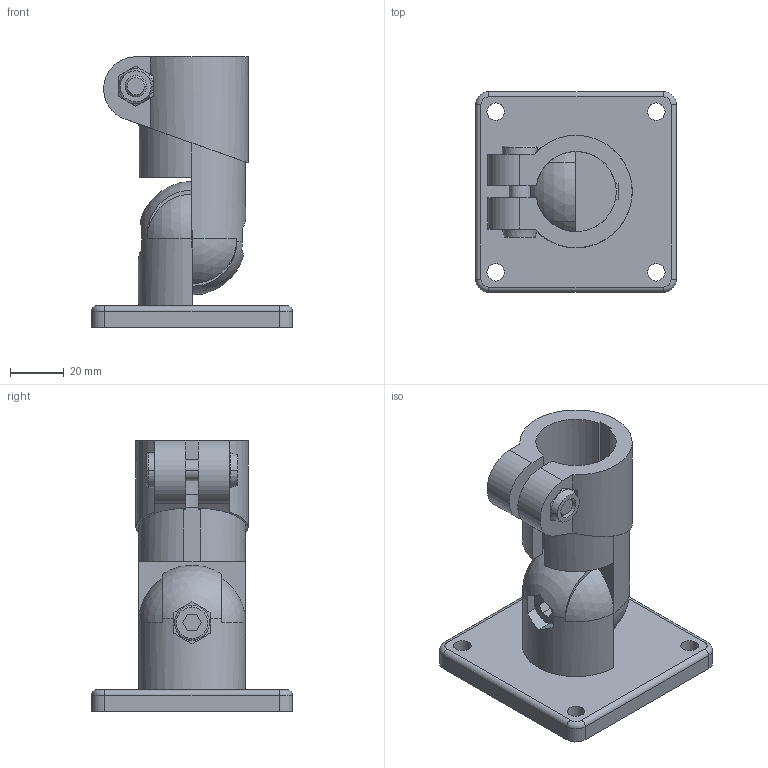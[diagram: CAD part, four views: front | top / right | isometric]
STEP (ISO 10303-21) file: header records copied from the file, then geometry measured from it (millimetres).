
FILE_DESCRIPTION (( 'STEP AP203' ), '1' );
FILE_NAME ('TCC30-AP-PB-T-G.STEP', '2023-09-15T06:35:56', ( '' ), ( '' ), 'SwSTEP 2.0', 'SolidWorks 2021', '' );
FILE_SCHEMA (( 'CONFIG_CONTROL_DESIGN' ));
Length unit declared in the file: millimetre
Products named in the file (7): TCC30-AP-PB-T-G_05; TCC30-AP-PB-T-G; TCC30-AP-PB-T-G_04; TCC30-AP-PB-T-G_06; TCC30-AP-PB-T-G_03; TCC30-AP-PB-T-G_02; TCC30-AP-PB-T-G_01
Assembly tree (6 placements, depth 2):
  TCC30-AP-PB-T-G
    TCC30-AP-PB-T-G_01
    TCC30-AP-PB-T-G_02
    TCC30-AP-PB-T-G_03
    TCC30-AP-PB-T-G_04
    TCC30-AP-PB-T-G_05
    TCC30-AP-PB-T-G_06
Bounding box: 75 x 75 x 101 mm (x, y, z)
Volume: 120563.7 mm3; surface area: 45136 mm2
Topology: 6 solids, 6 shells, 267 faces, 655 edges, 421 vertices
Faces by surface type: plane 143, cylinder 78, cone 32, torus 8, sphere 6
Entity records: 9097 total; most frequent: CARTESIAN_POINT 1948, DIRECTION 1372, ORIENTED_EDGE 1310, EDGE_CURVE 655, AXIS2_PLACEMENT_3D 508, VERTEX_POINT 421, VECTOR 356, LINE 356
